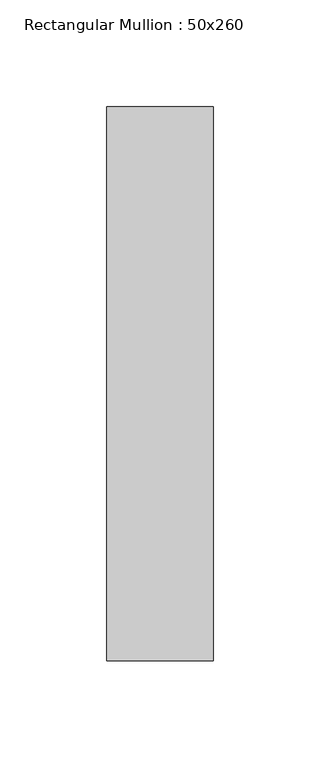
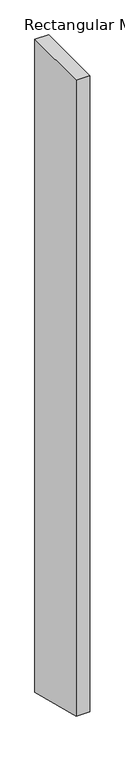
"""IFC4 building model written with IfcOpenShell, lengths in millimetres: member geometry, Rectangular Mullion : 50x260."""

from ifc_helpers import new_model, si_unit, frame, origin, place, context, project, spatial, polyline, outline, extrude, source, transform, mapped, element, save


def rectangular_mullion_50x260_6d0dad48(model_context):
    return source(origin(), model_context, "Body", "SweptSolid", [
        extrude(outline(polyline([(-130.0, 0.0), (130.0, 0.0), (130.0, -2512.3705137), (-130.0, -2447.1978333), (-130.0, 0.0)])), frame((-50.0, 0.0, 0.0), z_axis=(1.0, 0.0, 0.0), x_axis=(0.0, 1.0, 0.0)), (0.0, 0.0, 1.0), 50.0),
    ])


if __name__ == "__main__":
    model = new_model("IFC4")
    model_context = context("Model", 3, world=origin())
    ifc_project = project(units=[si_unit("LENGTHUNIT", "METRE", prefix="MILLI")], contexts=[model_context])
    site = spatial("IfcSite", under=ifc_project)
    building = spatial("IfcBuilding", under=site)
    placement = place(None, origin())
    rectangular_mullion_50x260_shape = rectangular_mullion_50x260_6d0dad48(model_context)
    element("IfcMember", 1, ObjectType="Rectangular Mullion : 50x260", at=placement, inside=building, context=model_context, shape_type="MappedRepresentation", body=[
        mapped(rectangular_mullion_50x260_shape, transform((0.0, 0.0, 0.0), x_axis=(1.0, 0.0, 0.0), y_axis=(0.0, 1.0, 0.0), z_axis=(0.0, 0.0, 1.0))),
    ])
    save(model, "model.ifc")
